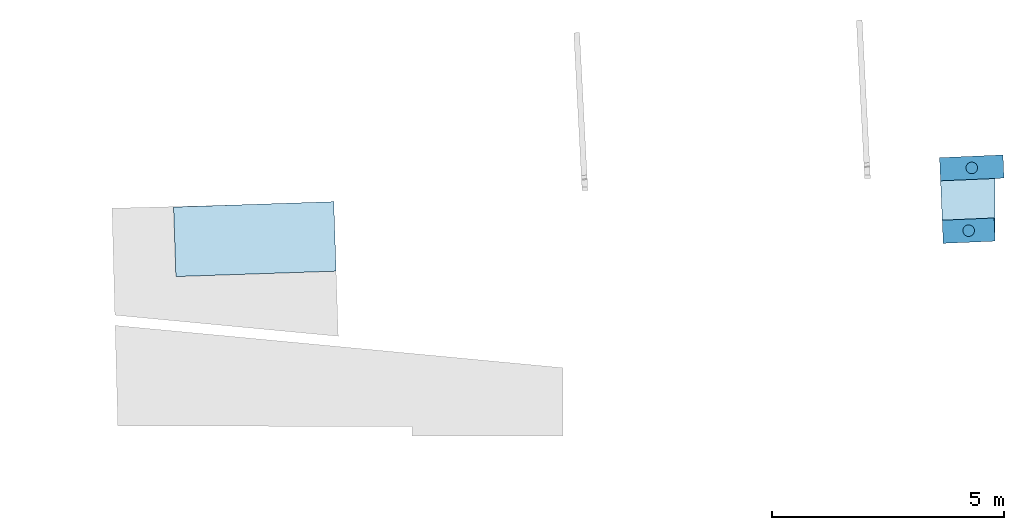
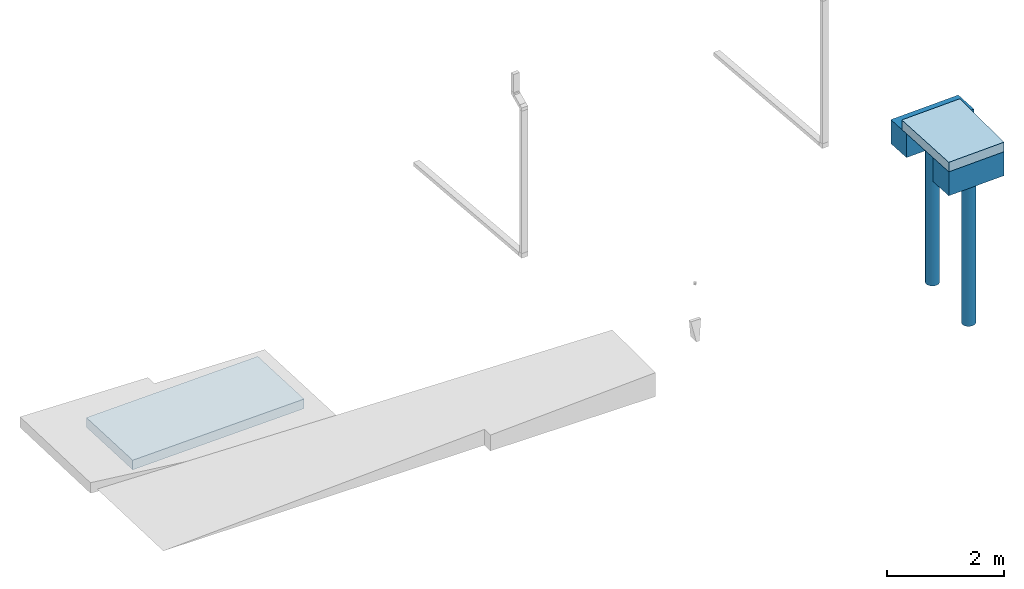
# One storey, part 1 of 4: 6 slabs.
"""IFC2X3 building model written with IfcOpenShell, lengths in metres."""

from ifc_helpers import new_model, entity, si_unit, converted_unit, derived_unit, direction, frame, frame_2d, origin, origin_2d_with_axis, place, context, subcontext, project, spatial, polyline, rectangle, circle, outline, extrude, material, layer, layer_set, layer_usage, type_object, element, save


model = new_model("IFC2X3")

# Units and contexts
model_context = context("Model", 3, precision=1e-05, world=origin(), true_north=direction((6.123031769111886e-17, 1.0)))
body_context = subcontext(model_context, "Body", "Model", "MODEL_VIEW")
ifc_project = project(units=[si_unit("LENGTHUNIT", "METRE"), si_unit("AREAUNIT", "SQUARE_METRE"), converted_unit("PLANEANGLEUNIT", "DEGREE", entity("IfcPlaneAngleMeasure", 0.017453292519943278), si_unit("PLANEANGLEUNIT", "RADIAN"), dimensions=[0, 0, 0, 0, 0, 0, 0]), derived_unit("THERMALTRANSMITTANCEUNIT", [(si_unit("MASSUNIT", "GRAM", prefix="KILO"), 1), (si_unit("THERMODYNAMICTEMPERATUREUNIT", "KELVIN"), -1), (si_unit("TIMEUNIT", "SECOND"), -3)])], contexts=[model_context])

# Site, building, storey
site_placement = place(None, origin())
site = spatial("IfcSite", under=ifc_project, at=site_placement, Name="Default", CompositionType="ELEMENT")
building_placement = place(site_placement, origin())
building = spatial("IfcBuilding", under=site, at=building_placement, CompositionType="ELEMENT")
storey_placement = place(building_placement, frame((0.0, 0.0, -4.0)))
storey = spatial("IfcBuildingStorey", under=building, at=storey_placement, Name="Fondations", CompositionType="ELEMENT", Elevation=-3.999999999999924)

# Slabs
ifc_material_1 = material(Name="STR - Beton")
ifc_layer = layer(ifc_material_1, 0.2)
ifc_layer_set = layer_set([ifc_layer], Name="Sol:Vo_Dalle_Beton_200mm")
ifc_layer_usage_1 = layer_usage(ifc_layer_set, "AXIS3", "POSITIVE", 0.0)
slab_type_1 = type_object("IfcSlabType", Name="Sol:Vo_Dalle_Beton_200mm", PredefinedType="FLOOR", material=ifc_layer_set)
slab_1_placement = place(storey_placement, origin())
element("IfcSlab", 1, at=slab_1_placement, inside=storey, type_object=slab_type_1, material=ifc_layer_usage_1, Name="Sol:Vo_Dalle_Beton_200mm", ObjectType="Sol:Vo_Dalle_Beton_200mm", PredefinedType="FLOOR", context=body_context, shape_type="SweptSolid", body=[
    extrude(outline(polyline([(-0.7746042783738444, -0.5739575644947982), (0.7267012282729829, -0.5739575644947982), (0.7732993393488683, 0.5426869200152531), (-0.7253962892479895, 0.6052282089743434), (-0.7746042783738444, -0.5739575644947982)])), frame((30.35040617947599, 150.06740554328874, 3.0039706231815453), z_axis=(0.0, 0.0, -1.0), x_axis=(0.001409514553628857, -0.9999990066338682, 0.0)), (0.0, 0.0, 1.0), 0.2),
])
ifc_layer_usage_2 = layer_usage(ifc_layer_set, "AXIS3", "POSITIVE", 0.0)
slab_2_placement = place(storey_placement, origin())
element("IfcSlab", 2, at=slab_2_placement, inside=storey, type_object=slab_type_1, material=ifc_layer_usage_2, Name="Sol:Vo_Dalle_Beton_200mm", ObjectType="Sol:Vo_Dalle_Beton_200mm", PredefinedType="FLOOR", context=body_context, shape_type="SweptSolid", body=[
    extrude(rectangle(XDim=1.5000000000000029, YDim=3.4573779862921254, at=frame_2d((-1.7208456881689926e-14, -1.5543122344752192e-15), x_axis=(1.0, 0.0))), frame((14.963583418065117, 149.38519364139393, 3.0039706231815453), z_axis=(0.0, 0.0, -1.0), x_axis=(0.033673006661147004, -0.9994329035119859, 0.0)), (0.0, 0.0, 1.0), 0.2),
])
slab_type_2 = type_object("IfcSlabType", Name="Pieu-Conduite en acier:Diamètre de 250 mm", PredefinedType="BASESLAB")
slab_3_placement = place(storey_placement, origin())
element("IfcSlab", 3, at=slab_3_placement, inside=storey, type_object=slab_type_2, Name="Pieu-Conduite en acier:Diamètre de 250 mm", ObjectType="Pieu-Conduite en acier:Diamètre de 250 mm", PredefinedType="BASESLAB", context=body_context, shape_type="SweptSolid", body=[
    extrude(circle(Radius=0.125, at=origin_2d_with_axis()), frame((30.42421568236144, 150.9212316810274, -0.6960293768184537), z_axis=(0.0, 0.0, 1.0), x_axis=(0.9990706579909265, 0.04310244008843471, 0.0)), (0.0, 0.0, 1.0), 2.999999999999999),
])
slab_4_placement = place(storey_placement, origin())
element("IfcSlab", 4, at=slab_4_placement, inside=storey, type_object=slab_type_2, Name="Pieu-Conduite en acier:Diamètre de 250 mm", ObjectType="Pieu-Conduite en acier:Diamètre de 250 mm", PredefinedType="BASESLAB", context=body_context, shape_type="SweptSolid", body=[
    extrude(circle(Radius=0.125, at=origin_2d_with_axis()), frame((30.35751373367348, 149.5672470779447, -0.6960293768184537), z_axis=(0.0, 0.0, 1.0), x_axis=(0.9990706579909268, 0.04310244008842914, 0.0)), (0.0, 0.0, 1.0), 2.999999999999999),
])
ifc_material_2 = material(Name="Béton - Béton coulé sur place")
slab_type_3 = type_object("IfcSlabType", Name="Casque de battage-1 poteau:TP1370x500x500 - Pieux 250", PredefinedType="BASESLAB", material=ifc_material_2)
slab_5_placement = place(storey_placement, origin())
element("IfcSlab", 5, at=slab_5_placement, inside=storey, type_object=slab_type_3, Name="Casque de battage-1 poteau:TP1370x500x500 - Pieux 250", ObjectType="Casque de battage-1 poteau:TP1370x500x500 - Pieux 250", PredefinedType="BASESLAB", context=body_context, shape_type="SweptSolid", body=[
    extrude(rectangle(XDim=1.3699999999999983, YDim=0.5000000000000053, at=frame_2d((2.4980018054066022e-15, 8.548717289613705e-15), x_axis=(1.0, 0.0))), frame((30.424215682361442, 150.9212316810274, 2.3039706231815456), z_axis=(0.0, 0.0, 1.0), x_axis=(-0.9990706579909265, -0.043102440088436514, 0.0)), (0.0, 0.0, 1.0), 0.49999999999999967),
])
slab_type_4 = type_object("IfcSlabType", Name="Casque de battage-1 poteau:TP 1120x500x500 - Pieux 250", PredefinedType="BASESLAB", material=ifc_material_2)
slab_6_placement = place(storey_placement, origin())
element("IfcSlab", 6, at=slab_6_placement, inside=storey, type_object=slab_type_4, Name="Casque de battage-1 poteau:TP 1120x500x500 - Pieux 250", ObjectType="Casque de battage-1 poteau:TP 1120x500x500 - Pieux 250", PredefinedType="BASESLAB", context=body_context, shape_type="SweptSolid", body=[
    extrude(rectangle(XDim=1.1199999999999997, YDim=0.5000000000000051, at=frame_2d((2.55351295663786e-15, 8.576472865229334e-15), x_axis=(1.0, 0.0))), frame((30.35751373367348, 149.5672470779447, 2.3039706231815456), z_axis=(0.0, 0.0, 1.0), x_axis=(-0.9990706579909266, -0.04310244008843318, 0.0)), (0.0, 0.0, 1.0), 0.4999999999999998),
])

save(model, "model.ifc")
